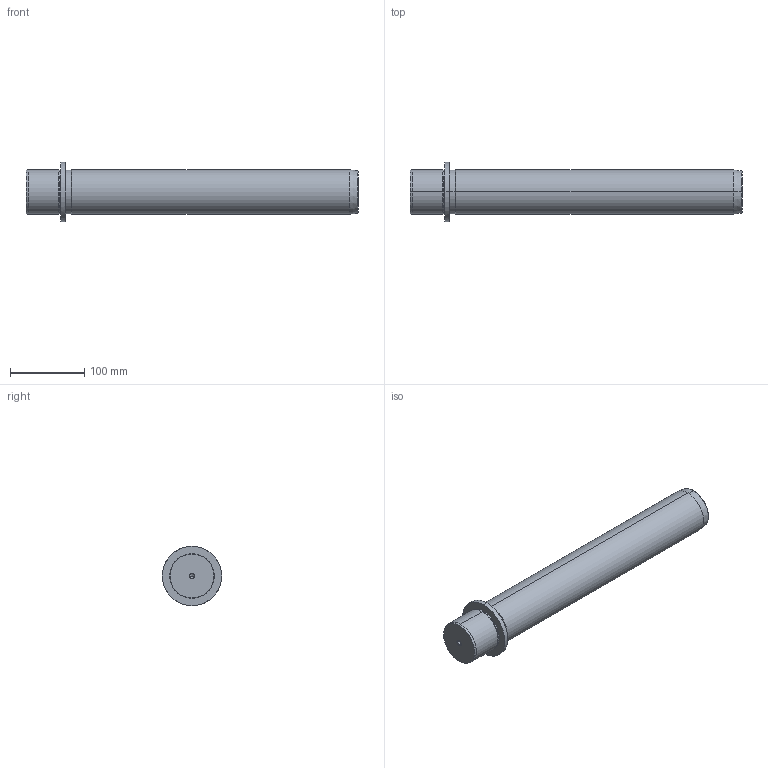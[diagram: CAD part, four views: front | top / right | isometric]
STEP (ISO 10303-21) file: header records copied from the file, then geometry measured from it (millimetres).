
FILE_DESCRIPTION(('CATIA V5 STEP Exchange'),'2;1');
FILE_NAME('C:\Users\Utente\Desktop\IO LAVORO\3D X SITO CF\X SITO\718\718-60x400.stp','2021-01-02T07:48:42+00:00',('none'),('none'),'CATIA Version 5 Release 20 GA (IN-10)','CATIA V5 STEP AP203','none');
FILE_SCHEMA(('CONFIG_CONTROL_DESIGN'));
Length unit declared in the file: millimetre
Products named in the file (1): 718-60x400
Bounding box: 447 x 80 x 80 mm (x, y, z)
Volume: 1272472.3 mm3; surface area: 95435.8 mm2
Topology: 1 solids, 1 shells, 36 faces, 100 edges, 66 vertices
Faces by surface type: cone 16, cylinder 14, plane 4, torus 2
Entity records: 1291 total; most frequent: CARTESIAN_POINT 362, ORIENTED_EDGE 192, DIRECTION 157, EDGE_CURVE 96, AXIS2_PLACEMENT_3D 92, VERTEX_POINT 66, CIRCLE 55, EDGE_LOOP 40
